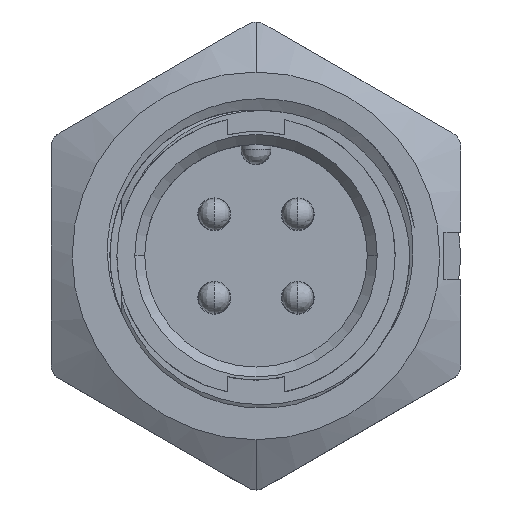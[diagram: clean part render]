
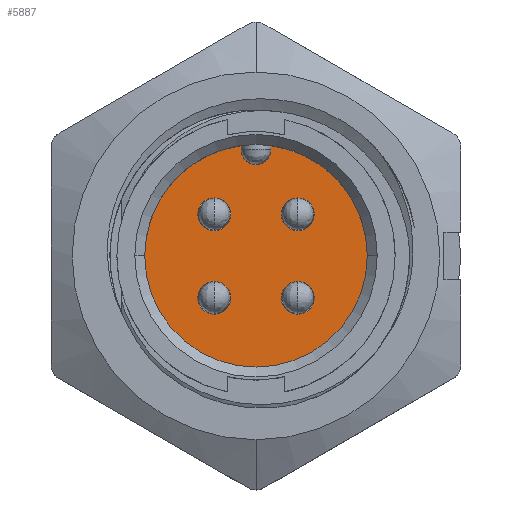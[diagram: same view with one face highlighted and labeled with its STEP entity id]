
A CAD part, top view. The second image highlights one B-rep face of the part: STEP entity #5887.
In plain terms, the highlighted planar face has unit normal (0, 0, 1).
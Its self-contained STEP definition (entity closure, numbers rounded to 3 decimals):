
#33 = ORIENTED_EDGE ( 'NONE', *, *, #10228, .T. ) ;
#79 = DIRECTION ( 'NONE',  ( 0., 0., 1. ) ) ;
#151 = FACE_BOUND ( 'NONE', #12815, .T. ) ;
#340 = CARTESIAN_POINT ( 'NONE',  ( -2.925, -2.1, -9. ) ) ;
#452 = CIRCLE ( 'NONE', #14268, 0.825 ) ;
#479 = DIRECTION ( 'NONE',  ( 0., 0., 1. ) ) ;
#550 = FACE_BOUND ( 'NONE', #3021, .T. ) ;
#567 = CARTESIAN_POINT ( 'NONE',  ( 1.275, -2.1, -9. ) ) ;
#634 = AXIS2_PLACEMENT_3D ( 'NONE', #6941, #5457, #9859 ) ;
#674 = CIRCLE ( 'NONE', #9187, 0.825 ) ;
#732 = CARTESIAN_POINT ( 'NONE',  ( 2.925, 2.1, -9. ) ) ;
#808 = VECTOR ( 'NONE', #8430, 1000. ) ;
#920 = VERTEX_POINT ( 'NONE', #5641 ) ;
#930 = CARTESIAN_POINT ( 'NONE',  ( -2.1, -2.1, -9. ) ) ;
#1021 = CARTESIAN_POINT ( 'NONE',  ( 0.75, 5.35, -9. ) ) ;
#1060 = AXIS2_PLACEMENT_3D ( 'NONE', #7357, #10974, #1880 ) ;
#1072 = EDGE_CURVE ( 'NONE', #8546, #10334, #12753, .T. ) ;
#1523 = CARTESIAN_POINT ( 'NONE',  ( 0.75, -0.028, -9. ) ) ;
#1536 = ORIENTED_EDGE ( 'NONE', *, *, #9165, .T. ) ;
#1630 = EDGE_CURVE ( 'NONE', #3113, #5575, #9315, .T. ) ;
#1635 = DIRECTION ( 'NONE',  ( 1., 0., 0. ) ) ;
#1636 = ORIENTED_EDGE ( 'NONE', *, *, #11863, .T. ) ;
#1688 = VERTEX_POINT ( 'NONE', #567 ) ;
#1868 = DIRECTION ( 'NONE',  ( 0., 1., 0. ) ) ;
#1880 = DIRECTION ( 'NONE',  ( 1., 0., 0. ) ) ;
#1937 = EDGE_CURVE ( 'NONE', #8773, #6392, #4804, .T. ) ;
#2002 = EDGE_CURVE ( 'NONE', #920, #2389, #14256, .T. ) ;
#2083 = EDGE_CURVE ( 'NONE', #1688, #13172, #674, .T. ) ;
#2143 = DIRECTION ( 'NONE',  ( 0., 0., -1. ) ) ;
#2205 = CIRCLE ( 'NONE', #1060, 0.825 ) ;
#2359 = CARTESIAN_POINT ( 'NONE',  ( -2.925, 2.1, -9. ) ) ;
#2373 = CARTESIAN_POINT ( 'NONE',  ( 0., 0., -9. ) ) ;
#2389 = VERTEX_POINT ( 'NONE', #2359 ) ;
#2588 = CARTESIAN_POINT ( 'NONE',  ( 1.275, 2.1, -9. ) ) ;
#2676 = CARTESIAN_POINT ( 'NONE',  ( 2.925, -2.1, -9. ) ) ;
#3021 = EDGE_LOOP ( 'NONE', ( #4843, #1636 ) ) ;
#3026 = CARTESIAN_POINT ( 'NONE',  ( 2.1, -2.1, -9. ) ) ;
#3097 = CARTESIAN_POINT ( 'NONE',  ( -0.75, 5.35, -9. ) ) ;
#3098 = AXIS2_PLACEMENT_3D ( 'NONE', #5164, #7203, #11598 ) ;
#3113 = VERTEX_POINT ( 'NONE', #11320 ) ;
#3338 = DIRECTION ( 'NONE',  ( 1., 0., 0. ) ) ;
#3418 = ORIENTED_EDGE ( 'NONE', *, *, #2083, .T. ) ;
#3566 = AXIS2_PLACEMENT_3D ( 'NONE', #9146, #7198, #8342 ) ;
#3575 = EDGE_LOOP ( 'NONE', ( #9519, #13153 ) ) ;
#3920 = CARTESIAN_POINT ( 'NONE',  ( -2.1, -2.1, -9. ) ) ;
#4053 = DIRECTION ( 'NONE',  ( 1., 0., 0. ) ) ;
#4789 = EDGE_CURVE ( 'NONE', #10205, #11556, #5501, .T. ) ;
#4804 = CIRCLE ( 'NONE', #12174, 0.825 ) ;
#4843 = ORIENTED_EDGE ( 'NONE', *, *, #4789, .T. ) ;
#5120 = CARTESIAN_POINT ( 'NONE',  ( 2.1, 2.1, -9. ) ) ;
#5137 = CARTESIAN_POINT ( 'NONE',  ( -2.1, 2.1, -9. ) ) ;
#5164 = CARTESIAN_POINT ( 'NONE',  ( 0., 0., -9. ) ) ;
#5417 = DIRECTION ( 'NONE',  ( 1., 0., 0. ) ) ;
#5457 = DIRECTION ( 'NONE',  ( 0., 0., -1. ) ) ;
#5501 = CIRCLE ( 'NONE', #13553, 0.825 ) ;
#5575 = VERTEX_POINT ( 'NONE', #10243 ) ;
#5641 = CARTESIAN_POINT ( 'NONE',  ( -1.275, 2.1, -9. ) ) ;
#5653 = VERTEX_POINT ( 'NONE', #9302 ) ;
#5718 = CARTESIAN_POINT ( 'NONE',  ( 0.75, 5.55, -9. ) ) ;
#5759 = EDGE_LOOP ( 'NONE', ( #6576, #11277, #11997, #13071, #6513, #1536 ) ) ;
#5887 = ADVANCED_FACE ( 'NONE', ( #13740, #6777, #550, #151, #11578 ), #9339, .T. ) ;
#5963 = CIRCLE ( 'NONE', #10119, 0.825 ) ;
#5972 = EDGE_CURVE ( 'NONE', #10334, #11363, #8007, .T. ) ;
#5975 = VECTOR ( 'NONE', #1868, 1000. ) ;
#6392 = VERTEX_POINT ( 'NONE', #340 ) ;
#6513 = ORIENTED_EDGE ( 'NONE', *, *, #9511, .T. ) ;
#6576 = ORIENTED_EDGE ( 'NONE', *, *, #1072, .T. ) ;
#6777 = FACE_BOUND ( 'NONE', #3575, .T. ) ;
#6941 = CARTESIAN_POINT ( 'NONE',  ( 0., 5.35, -9. ) ) ;
#6984 = EDGE_CURVE ( 'NONE', #6392, #8773, #12796, .T. ) ;
#7113 = AXIS2_PLACEMENT_3D ( 'NONE', #5137, #10554, #9331 ) ;
#7198 = DIRECTION ( 'NONE',  ( 0., 0., 1. ) ) ;
#7203 = DIRECTION ( 'NONE',  ( 0., 0., 1. ) ) ;
#7239 = DIRECTION ( 'NONE',  ( 1., 0., 0. ) ) ;
#7288 = AXIS2_PLACEMENT_3D ( 'NONE', #8934, #479, #1635 ) ;
#7357 = CARTESIAN_POINT ( 'NONE',  ( -2.1, 2.1, -9. ) ) ;
#7516 = CIRCLE ( 'NONE', #11180, 5.6 ) ;
#7723 = DIRECTION ( 'NONE',  ( 1., 0., 0. ) ) ;
#7888 = EDGE_LOOP ( 'NONE', ( #12420, #3418 ) ) ;
#8007 = CIRCLE ( 'NONE', #634, 0.75 ) ;
#8342 = DIRECTION ( 'NONE',  ( 1., 0., 0. ) ) ;
#8418 = CARTESIAN_POINT ( 'NONE',  ( -0.75, -0.028, -9. ) ) ;
#8430 = DIRECTION ( 'NONE',  ( 0., -1., 0. ) ) ;
#8546 = VERTEX_POINT ( 'NONE', #5718 ) ;
#8599 = CARTESIAN_POINT ( 'NONE',  ( 2.1, -2.1, -9. ) ) ;
#8773 = VERTEX_POINT ( 'NONE', #11746 ) ;
#8934 = CARTESIAN_POINT ( 'NONE',  ( 0., -0.028, -9. ) ) ;
#9035 = DIRECTION ( 'NONE',  ( 1., 0., 0. ) ) ;
#9146 = CARTESIAN_POINT ( 'NONE',  ( 0., 0., -9. ) ) ;
#9165 = EDGE_CURVE ( 'NONE', #5653, #8546, #7516, .T. ) ;
#9187 = AXIS2_PLACEMENT_3D ( 'NONE', #8599, #13001, #3338 ) ;
#9302 = CARTESIAN_POINT ( 'NONE',  ( 5.6, 0., -9. ) ) ;
#9315 = CIRCLE ( 'NONE', #3566, 5.6 ) ;
#9322 = CIRCLE ( 'NONE', #3098, 5.6 ) ;
#9331 = DIRECTION ( 'NONE',  ( 1., 0., 0. ) ) ;
#9339 = PLANE ( 'NONE',  #7288 ) ;
#9511 = EDGE_CURVE ( 'NONE', #5575, #5653, #9322, .T. ) ;
#9519 = ORIENTED_EDGE ( 'NONE', *, *, #1937, .T. ) ;
#9528 = DIRECTION ( 'NONE',  ( 0., 0., -1. ) ) ;
#9799 = LINE ( 'NONE', #8418, #5975 ) ;
#9859 = DIRECTION ( 'NONE',  ( 1., 0., 0. ) ) ;
#10119 = AXIS2_PLACEMENT_3D ( 'NONE', #3026, #11825, #7723 ) ;
#10205 = VERTEX_POINT ( 'NONE', #732 ) ;
#10228 = EDGE_CURVE ( 'NONE', #2389, #920, #2205, .T. ) ;
#10243 = CARTESIAN_POINT ( 'NONE',  ( -5.6, 0., -9. ) ) ;
#10252 = CARTESIAN_POINT ( 'NONE',  ( 2.1, 2.1, -9. ) ) ;
#10334 = VERTEX_POINT ( 'NONE', #1021 ) ;
#10485 = DIRECTION ( 'NONE',  ( 0., 0., -1. ) ) ;
#10554 = DIRECTION ( 'NONE',  ( 0., 0., -1. ) ) ;
#10654 = DIRECTION ( 'NONE',  ( 1., 0., 0. ) ) ;
#10974 = DIRECTION ( 'NONE',  ( 0., 0., -1. ) ) ;
#11180 = AXIS2_PLACEMENT_3D ( 'NONE', #2373, #79, #4053 ) ;
#11277 = ORIENTED_EDGE ( 'NONE', *, *, #5972, .T. ) ;
#11309 = EDGE_CURVE ( 'NONE', #13172, #1688, #5963, .T. ) ;
#11320 = CARTESIAN_POINT ( 'NONE',  ( -0.75, 5.55, -9. ) ) ;
#11363 = VERTEX_POINT ( 'NONE', #3097 ) ;
#11556 = VERTEX_POINT ( 'NONE', #2588 ) ;
#11578 = FACE_OUTER_BOUND ( 'NONE', #5759, .T. ) ;
#11598 = DIRECTION ( 'NONE',  ( 1., 0., 0. ) ) ;
#11704 = EDGE_CURVE ( 'NONE', #11363, #3113, #9799, .T. ) ;
#11746 = CARTESIAN_POINT ( 'NONE',  ( -1.275, -2.1, -9. ) ) ;
#11825 = DIRECTION ( 'NONE',  ( 0., 0., -1. ) ) ;
#11863 = EDGE_CURVE ( 'NONE', #11556, #10205, #452, .T. ) ;
#11914 = ORIENTED_EDGE ( 'NONE', *, *, #2002, .T. ) ;
#11997 = ORIENTED_EDGE ( 'NONE', *, *, #11704, .T. ) ;
#12116 = AXIS2_PLACEMENT_3D ( 'NONE', #930, #2143, #10654 ) ;
#12174 = AXIS2_PLACEMENT_3D ( 'NONE', #3920, #10485, #7239 ) ;
#12418 = DIRECTION ( 'NONE',  ( 0., 0., -1. ) ) ;
#12420 = ORIENTED_EDGE ( 'NONE', *, *, #11309, .T. ) ;
#12753 = LINE ( 'NONE', #1523, #808 ) ;
#12796 = CIRCLE ( 'NONE', #12116, 0.825 ) ;
#12815 = EDGE_LOOP ( 'NONE', ( #11914, #33 ) ) ;
#13001 = DIRECTION ( 'NONE',  ( 0., 0., -1. ) ) ;
#13071 = ORIENTED_EDGE ( 'NONE', *, *, #1630, .T. ) ;
#13153 = ORIENTED_EDGE ( 'NONE', *, *, #6984, .T. ) ;
#13172 = VERTEX_POINT ( 'NONE', #2676 ) ;
#13553 = AXIS2_PLACEMENT_3D ( 'NONE', #5120, #9528, #5417 ) ;
#13740 = FACE_BOUND ( 'NONE', #7888, .T. ) ;
#14256 = CIRCLE ( 'NONE', #7113, 0.825 ) ;
#14268 = AXIS2_PLACEMENT_3D ( 'NONE', #10252, #12418, #9035 ) ;
